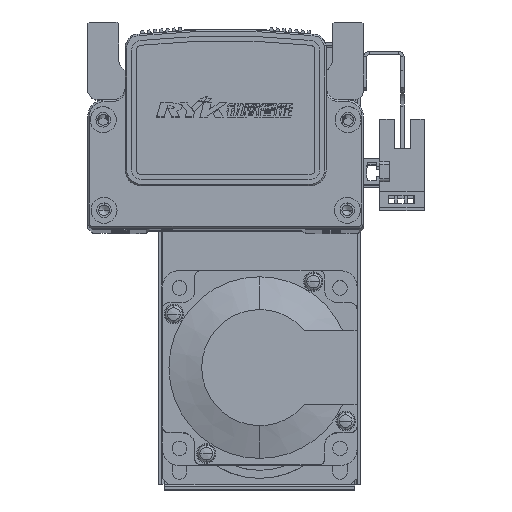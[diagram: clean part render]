
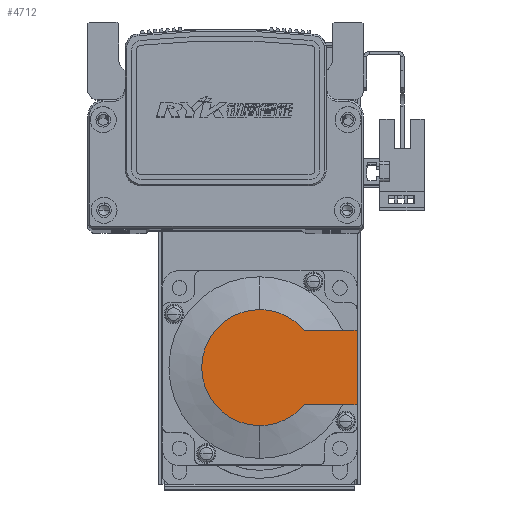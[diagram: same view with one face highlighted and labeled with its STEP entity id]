
A CAD part, top view. The second image highlights one B-rep face of the part: STEP entity #4712.
In plain terms, the highlighted planar face has unit normal (0, 0, 1) as drawn and (-1, 0, 0) by its records, which use the part's own axes.
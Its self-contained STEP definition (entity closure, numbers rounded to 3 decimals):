
#4712 = ADVANCED_FACE ( 'NONE', ( #5363 ), #16758, .T. ) ;
#5363 = FACE_OUTER_BOUND ( 'NONE', #24777, .T. ) ;
#7692 = CIRCLE ( 'NONE', #21566, 17.881 ) ;
#7717 = CIRCLE ( 'NONE', #21544, 17.881 ) ;
#12632 = DIRECTION ( 'NONE',  ( 0., 0., -1. ) ) ;
#12644 = CARTESIAN_POINT ( 'NONE',  ( -99., 0., 0. ) ) ;
#12701 = DIRECTION ( 'NONE',  ( -1., 0., 0. ) ) ;
#13353 = DIRECTION ( 'NONE',  ( -1., 0., 0. ) ) ;
#13358 = DIRECTION ( 'NONE',  ( 0., 0., -1. ) ) ;
#13380 = CARTESIAN_POINT ( 'NONE',  ( -99., 0., 0. ) ) ;
#13957 = DIRECTION ( 'NONE',  ( -1., 0., 0. ) ) ;
#13959 = DIRECTION ( 'NONE',  ( 0., 0., -1. ) ) ;
#13972 = CARTESIAN_POINT ( 'NONE',  ( -99., 0., 0. ) ) ;
#14759 = CIRCLE ( 'NONE', #21651, 17.881 ) ;
#16758 = PLANE ( 'NONE',  #65028 ) ;
#16835 = DIRECTION ( 'NONE',  ( 0., 0., 1. ) ) ;
#16863 = DIRECTION ( 'NONE',  ( -1., 0., 0. ) ) ;
#16864 = CARTESIAN_POINT ( 'NONE',  ( -99., -8.941, 0. ) ) ;
#21544 = AXIS2_PLACEMENT_3D ( 'NONE', #12644, #12701, #12632 ) ;
#21566 = AXIS2_PLACEMENT_3D ( 'NONE', #13380, #13353, #13358 ) ;
#21651 = AXIS2_PLACEMENT_3D ( 'NONE', #13972, #13957, #13959 ) ;
#24777 = EDGE_LOOP ( 'NONE', ( #34967, #35070, #35052, #35129, #35079, #35144 ) ) ;
#30287 = EDGE_CURVE ( 'NONE', #37872, #37827, #36884, .T. ) ;
#30296 = EDGE_CURVE ( 'NONE', #37963, #37360, #36889, .T. ) ;
#30306 = EDGE_CURVE ( 'NONE', #37872, #37963, #36866, .T. ) ;
#32721 = CARTESIAN_POINT ( 'NONE',  ( -99., 0., 17.881 ) ) ;
#32813 = CARTESIAN_POINT ( 'NONE',  ( -99., 0., -17.881 ) ) ;
#32839 = CARTESIAN_POINT ( 'NONE',  ( -99., 13.735, 11.45 ) ) ;
#32938 = CARTESIAN_POINT ( 'NONE',  ( -99., 13.735, -11.45 ) ) ;
#32981 = CARTESIAN_POINT ( 'NONE',  ( -99., 30., 11.45 ) ) ;
#32995 = CARTESIAN_POINT ( 'NONE',  ( -99., 30., -11.45 ) ) ;
#34967 = ORIENTED_EDGE ( 'NONE', *, *, #30287, .T. ) ;
#35052 = ORIENTED_EDGE ( 'NONE', *, *, #49677, .T. ) ;
#35070 = ORIENTED_EDGE ( 'NONE', *, *, #50204, .T. ) ;
#35079 = ORIENTED_EDGE ( 'NONE', *, *, #30296, .F. ) ;
#35129 = ORIENTED_EDGE ( 'NONE', *, *, #49581, .T. ) ;
#35144 = ORIENTED_EDGE ( 'NONE', *, *, #30306, .F. ) ;
#36836 = VECTOR ( 'NONE', #50427, 1000. ) ;
#36845 = VECTOR ( 'NONE', #50390, 1000. ) ;
#36847 = VECTOR ( 'NONE', #50405, 1000. ) ;
#36866 = LINE ( 'NONE', #50459, #36836 ) ;
#36884 = LINE ( 'NONE', #50327, #36845 ) ;
#36889 = LINE ( 'NONE', #50400, #36847 ) ;
#37168 = VERTEX_POINT ( 'NONE', #32721 ) ;
#37360 = VERTEX_POINT ( 'NONE', #32839 ) ;
#37474 = VERTEX_POINT ( 'NONE', #32813 ) ;
#37827 = VERTEX_POINT ( 'NONE', #32938 ) ;
#37872 = VERTEX_POINT ( 'NONE', #32995 ) ;
#37963 = VERTEX_POINT ( 'NONE', #32981 ) ;
#49581 = EDGE_CURVE ( 'NONE', #37168, #37360, #7717, .T. ) ;
#49677 = EDGE_CURVE ( 'NONE', #37474, #37168, #7692, .T. ) ;
#50204 = EDGE_CURVE ( 'NONE', #37827, #37474, #14759, .T. ) ;
#50327 = CARTESIAN_POINT ( 'NONE',  ( -99., -8.941, -11.45 ) ) ;
#50390 = DIRECTION ( 'NONE',  ( 0., -1., 0. ) ) ;
#50400 = CARTESIAN_POINT ( 'NONE',  ( -99., 0., 11.45 ) ) ;
#50405 = DIRECTION ( 'NONE',  ( 0., -1., 0. ) ) ;
#50427 = DIRECTION ( 'NONE',  ( 0., 0., 1. ) ) ;
#50459 = CARTESIAN_POINT ( 'NONE',  ( -99., 30., 25. ) ) ;
#65028 = AXIS2_PLACEMENT_3D ( 'NONE', #16864, #16863, #16835 ) ;
